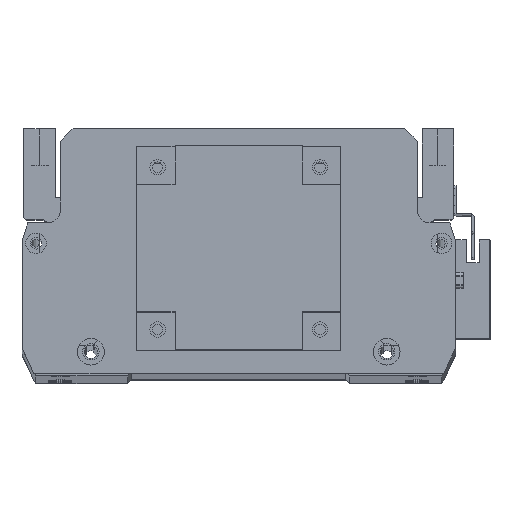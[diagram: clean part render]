
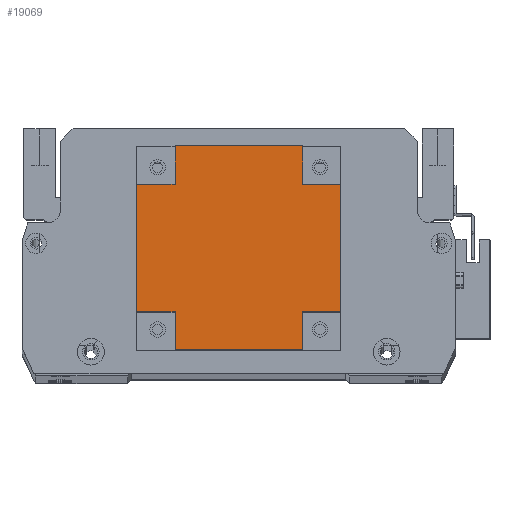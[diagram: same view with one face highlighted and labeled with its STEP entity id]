
A CAD part, top view. The second image highlights one B-rep face of the part: STEP entity #19069.
In plain terms, the highlighted planar face has unit normal (0, 0, 1).
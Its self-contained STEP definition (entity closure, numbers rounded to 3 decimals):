
#134 = EDGE_CURVE ( 'NONE', #3824, #14703, #16057, .T. ) ;
#213 = LINE ( 'NONE', #25942, #11312 ) ;
#917 = CARTESIAN_POINT ( 'NONE',  ( 65., 65., 101.5 ) ) ;
#1006 = VERTEX_POINT ( 'NONE', #15258 ) ;
#1296 = DIRECTION ( 'NONE',  ( -1., 0., 0. ) ) ;
#1300 = LINE ( 'NONE', #12256, #23833 ) ;
#1338 = LINE ( 'NONE', #18890, #12996 ) ;
#1679 = ORIENTED_EDGE ( 'NONE', *, *, #8028, .T. ) ;
#1859 = DIRECTION ( 'NONE',  ( -1., 0., 0. ) ) ;
#1989 = DIRECTION ( 'NONE',  ( 1., 0., 0. ) ) ;
#2985 = VECTOR ( 'NONE', #18173, 1000. ) ;
#3088 = VERTEX_POINT ( 'NONE', #18380 ) ;
#3206 = EDGE_CURVE ( 'NONE', #14703, #24578, #20427, .T. ) ;
#3605 = DIRECTION ( 'NONE',  ( 0., -1., 0. ) ) ;
#3824 = VERTEX_POINT ( 'NONE', #19337 ) ;
#4248 = CARTESIAN_POINT ( 'NONE',  ( 15., 15., 101.5 ) ) ;
#4685 = EDGE_CURVE ( 'NONE', #6012, #8624, #27941, .T. ) ;
#4888 = CARTESIAN_POINT ( 'NONE',  ( 80., 15., 101.5 ) ) ;
#6012 = VERTEX_POINT ( 'NONE', #6631 ) ;
#6144 = EDGE_CURVE ( 'NONE', #8624, #16732, #28202, .T. ) ;
#6238 = LINE ( 'NONE', #27842, #12049 ) ;
#6506 = LINE ( 'NONE', #24925, #21855 ) ;
#6631 = CARTESIAN_POINT ( 'NONE',  ( 80., 15., 101.5 ) ) ;
#6939 = DIRECTION ( 'NONE',  ( 0., 0., -1. ) ) ;
#7096 = DIRECTION ( 'NONE',  ( -1., 0., 0. ) ) ;
#7625 = CARTESIAN_POINT ( 'NONE',  ( 65., 65., 101.5 ) ) ;
#8028 = EDGE_CURVE ( 'NONE', #27433, #1006, #1338, .T. ) ;
#8378 = ORIENTED_EDGE ( 'NONE', *, *, #8582, .T. ) ;
#8413 = CARTESIAN_POINT ( 'NONE',  ( 65., 80., 101.5 ) ) ;
#8438 = ORIENTED_EDGE ( 'NONE', *, *, #9132, .F. ) ;
#8576 = DIRECTION ( 'NONE',  ( 0., -1., 0. ) ) ;
#8582 = EDGE_CURVE ( 'NONE', #6012, #24578, #6506, .T. ) ;
#8624 = VERTEX_POINT ( 'NONE', #18656 ) ;
#9132 = EDGE_CURVE ( 'NONE', #11556, #26395, #15299, .T. ) ;
#9155 = CARTESIAN_POINT ( 'NONE',  ( 80., 65., 101.5 ) ) ;
#9290 = ORIENTED_EDGE ( 'NONE', *, *, #20248, .T. ) ;
#9822 = CARTESIAN_POINT ( 'NONE',  ( 15., 80., 101.5 ) ) ;
#10307 = VECTOR ( 'NONE', #11763, 1000. ) ;
#10436 = VECTOR ( 'NONE', #24359, 1000. ) ;
#10448 = ORIENTED_EDGE ( 'NONE', *, *, #6144, .F. ) ;
#10584 = EDGE_CURVE ( 'NONE', #26395, #1006, #6238, .T. ) ;
#10599 = ORIENTED_EDGE ( 'NONE', *, *, #4685, .F. ) ;
#10814 = VECTOR ( 'NONE', #7096, 1000. ) ;
#11312 = VECTOR ( 'NONE', #1989, 1000. ) ;
#11556 = VERTEX_POINT ( 'NONE', #20594 ) ;
#11763 = DIRECTION ( 'NONE',  ( 0., 1., 0. ) ) ;
#11922 = CARTESIAN_POINT ( 'NONE',  ( 0., 0., 101.5 ) ) ;
#11999 = EDGE_CURVE ( 'NONE', #27433, #3088, #213, .T. ) ;
#12049 = VECTOR ( 'NONE', #1859, 1000. ) ;
#12256 = CARTESIAN_POINT ( 'NONE',  ( 0., 80., 101.5 ) ) ;
#12988 = FACE_OUTER_BOUND ( 'NONE', #22314, .T. ) ;
#12996 = VECTOR ( 'NONE', #3605, 1000. ) ;
#13425 = EDGE_CURVE ( 'NONE', #3088, #25996, #14555, .T. ) ;
#13580 = LINE ( 'NONE', #11922, #26441 ) ;
#14555 = LINE ( 'NONE', #9822, #19760 ) ;
#14703 = VERTEX_POINT ( 'NONE', #7625 ) ;
#15258 = CARTESIAN_POINT ( 'NONE',  ( 0., 15., 101.5 ) ) ;
#15299 = LINE ( 'NONE', #24703, #10307 ) ;
#16057 = LINE ( 'NONE', #8413, #26177 ) ;
#16732 = VERTEX_POINT ( 'NONE', #21618 ) ;
#16841 = AXIS2_PLACEMENT_3D ( 'NONE', #20031, #6939, #22162 ) ;
#18173 = DIRECTION ( 'NONE',  ( 1., 0., 0. ) ) ;
#18380 = CARTESIAN_POINT ( 'NONE',  ( 15., 65., 101.5 ) ) ;
#18656 = CARTESIAN_POINT ( 'NONE',  ( 65., 15., 101.5 ) ) ;
#18890 = CARTESIAN_POINT ( 'NONE',  ( 0., 0., 101.5 ) ) ;
#19069 = ADVANCED_FACE ( 'NONE', ( #12988 ), #26331, .F. ) ;
#19278 = ORIENTED_EDGE ( 'NONE', *, *, #13425, .F. ) ;
#19320 = EDGE_CURVE ( 'NONE', #3824, #25996, #1300, .T. ) ;
#19337 = CARTESIAN_POINT ( 'NONE',  ( 65., 80., 101.5 ) ) ;
#19760 = VECTOR ( 'NONE', #27015, 1000. ) ;
#20031 = CARTESIAN_POINT ( 'NONE',  ( 0., 0., 101.5 ) ) ;
#20248 = EDGE_CURVE ( 'NONE', #11556, #16732, #13580, .T. ) ;
#20427 = LINE ( 'NONE', #917, #2985 ) ;
#20594 = CARTESIAN_POINT ( 'NONE',  ( 15., 0., 101.5 ) ) ;
#21618 = CARTESIAN_POINT ( 'NONE',  ( 65., 0., 101.5 ) ) ;
#21740 = ORIENTED_EDGE ( 'NONE', *, *, #19320, .T. ) ;
#21855 = VECTOR ( 'NONE', #22883, 1000. ) ;
#22162 = DIRECTION ( 'NONE',  ( -1., 0., 0. ) ) ;
#22237 = CARTESIAN_POINT ( 'NONE',  ( 65., 0., 101.5 ) ) ;
#22269 = ORIENTED_EDGE ( 'NONE', *, *, #134, .F. ) ;
#22314 = EDGE_LOOP ( 'NONE', ( #21740, #19278, #22602, #1679, #23456, #8438, #9290, #10448, #10599, #8378, #26466, #22269 ) ) ;
#22602 = ORIENTED_EDGE ( 'NONE', *, *, #11999, .F. ) ;
#22883 = DIRECTION ( 'NONE',  ( 0., 1., 0. ) ) ;
#23456 = ORIENTED_EDGE ( 'NONE', *, *, #10584, .F. ) ;
#23833 = VECTOR ( 'NONE', #1296, 1000. ) ;
#24359 = DIRECTION ( 'NONE',  ( 0., -1., 0. ) ) ;
#24578 = VERTEX_POINT ( 'NONE', #9155 ) ;
#24703 = CARTESIAN_POINT ( 'NONE',  ( 15., 0., 101.5 ) ) ;
#24925 = CARTESIAN_POINT ( 'NONE',  ( 80., 0., 101.5 ) ) ;
#25259 = CARTESIAN_POINT ( 'NONE',  ( 0., 65., 101.5 ) ) ;
#25942 = CARTESIAN_POINT ( 'NONE',  ( 0., 65., 101.5 ) ) ;
#25996 = VERTEX_POINT ( 'NONE', #26353 ) ;
#26177 = VECTOR ( 'NONE', #8576, 1000. ) ;
#26331 = PLANE ( 'NONE',  #16841 ) ;
#26353 = CARTESIAN_POINT ( 'NONE',  ( 15., 80., 101.5 ) ) ;
#26395 = VERTEX_POINT ( 'NONE', #4248 ) ;
#26441 = VECTOR ( 'NONE', #27004, 1000. ) ;
#26466 = ORIENTED_EDGE ( 'NONE', *, *, #3206, .F. ) ;
#27004 = DIRECTION ( 'NONE',  ( 1., 0., 0. ) ) ;
#27015 = DIRECTION ( 'NONE',  ( 0., 1., 0. ) ) ;
#27433 = VERTEX_POINT ( 'NONE', #25259 ) ;
#27842 = CARTESIAN_POINT ( 'NONE',  ( 0., 15., 101.5 ) ) ;
#27941 = LINE ( 'NONE', #4888, #10814 ) ;
#28202 = LINE ( 'NONE', #22237, #10436 ) ;
